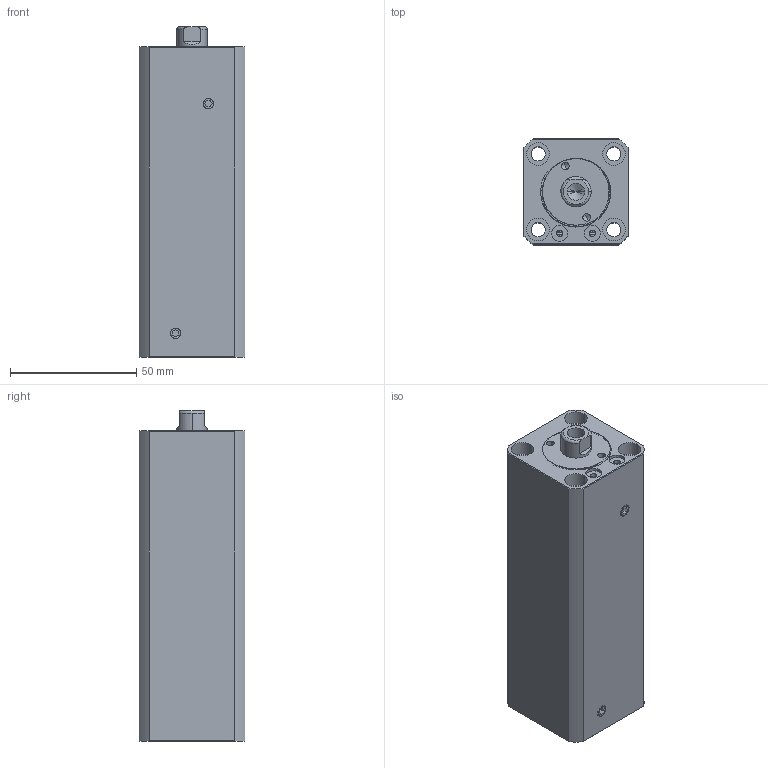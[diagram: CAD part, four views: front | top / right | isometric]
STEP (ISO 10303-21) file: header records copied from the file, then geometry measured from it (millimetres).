
FILE_DESCRIPTION (( 'STEP AP214' ), '1' );
FILE_NAME ('chtb-sdma20x80n_asm.STEP', '2018-05-18T06:49:36', ( '' ), ( '' ), 'SwSTEP 2.0', 'SolidWorks 2016', '' );
FILE_SCHEMA (( 'AUTOMOTIVE_DESIGN' ));
Length unit declared in the file: millimetre
Products named in the file (5): socket set screw flat point_iso_ISO 4026 - M5 x 5-N; QG_3; CHTB-SDMA20X80NHSG; CHTB-SDMA20X80NBT; chtb-sdma20x80n_asm
Assembly tree (5 placements, depth 2):
  chtb-sdma20x80n_asm
    CHTB-SDMA20X80NBT
    CHTB-SDMA20X80NHSG
    QG_3
    socket set screw flat point_iso_ISO 4026 - M5 x 5-N  x2
Bounding box: 42 x 42 x 131 mm (x, y, z)
Volume: 181381.2 mm3; surface area: 51823.8 mm2
Topology: 5 solids, 5 shells, 232 faces, 602 edges, 396 vertices
Faces by surface type: cylinder 111, plane 61, torus 25, bspline 21, cone 14
Entity records: 12042 total; most frequent: CARTESIAN_POINT 6742, ORIENTED_EDGE 1128, DIRECTION 1000, EDGE_CURVE 564, AXIS2_PLACEMENT_3D 415, VERTEX_POINT 376, EDGE_LOOP 256, FACE_OUTER_BOUND 217
